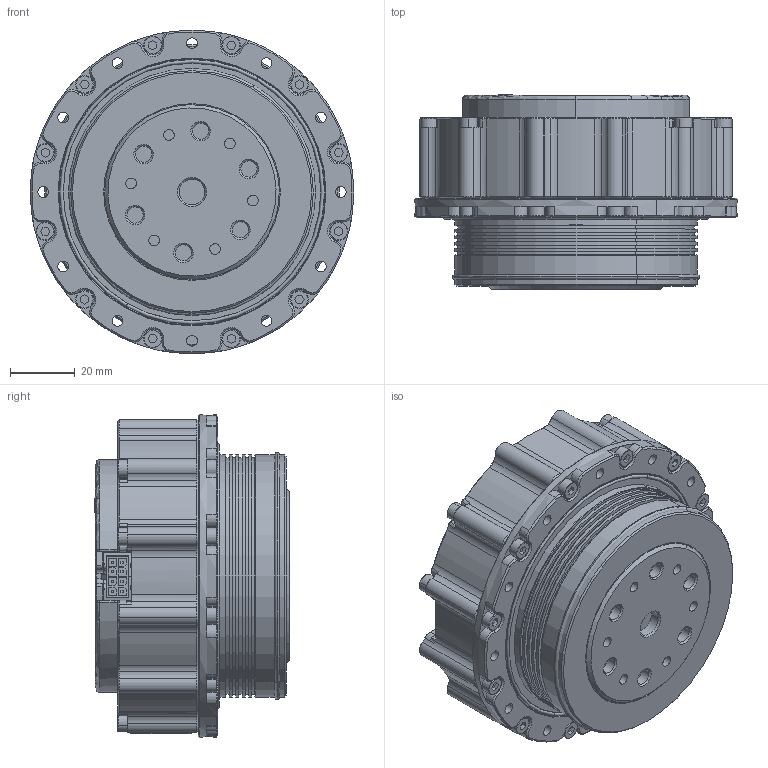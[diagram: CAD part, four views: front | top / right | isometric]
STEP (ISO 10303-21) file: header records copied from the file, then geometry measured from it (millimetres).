
FILE_DESCRIPTION (( 'STEP AP214' ), '1' );
FILE_NAME ('QDD-NU80-36_v3_3.STEP', '2019-10-15T09:24:09', ( '' ), ( '' ), 'SwSTEP 2.0', 'SolidWorks 2018', '' );
FILE_SCHEMA (( 'AUTOMOTIVE_DESIGN' ));
Length unit declared in the file: millimetre
Products named in the file (1): QDD-NU80-36_v3_3
Bounding box: 100 x 60.14 x 100 mm (x, y, z)
Volume: 273214.1 mm3; surface area: 105922.7 mm2
Topology: 42 solids, 54 shells, 3480 faces, 8737 edges, 5506 vertices
Faces by surface type: plane 1500, cylinder 1153, cone 559, torus 148, bspline 104, sphere 16
Entity records: 126732 total; most frequent: CARTESIAN_POINT 29545, ORIENTED_EDGE 17378, DIRECTION 16908, EDGE_CURVE 8689, AXIS2_PLACEMENT_3D 5927, VERTEX_POINT 5506, LINE 5054, VECTOR 5054
